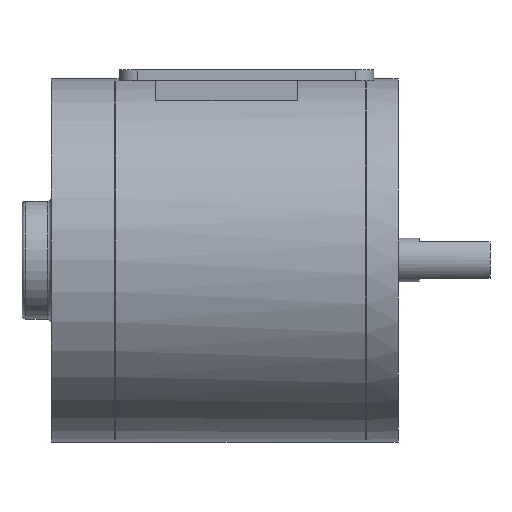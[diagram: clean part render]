
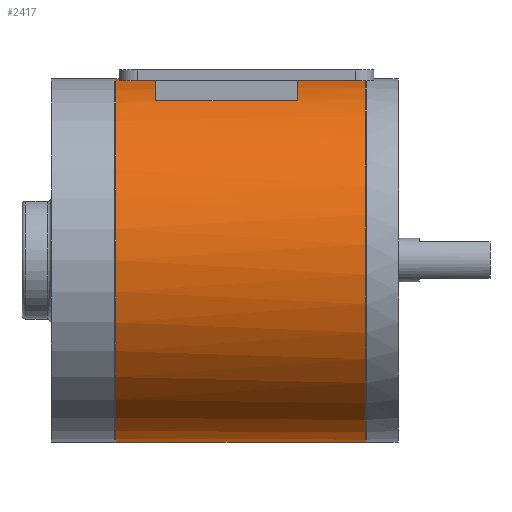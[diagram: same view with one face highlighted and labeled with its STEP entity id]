
A CAD part, left-side view. The second image highlights one B-rep face of the part: STEP entity #2417.
In plain terms, the highlighted cylindrical face has radius 50 mm (diameter 100 mm), a partial arc.
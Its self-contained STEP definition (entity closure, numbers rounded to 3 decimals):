
#17 = EDGE_CURVE ( 'NONE', #1849, #576, #639, .T. ) ;
#64 = LINE ( 'NONE', #2959, #3316 ) ;
#103 = VECTOR ( 'NONE', #3511, 1000. ) ;
#162 = VERTEX_POINT ( 'NONE', #902 ) ;
#228 = CARTESIAN_POINT ( 'NONE',  ( 0., -32.75, -99.395 ) ) ;
#278 = CARTESIAN_POINT ( 'NONE',  ( 0., 36.05, -49.395 ) ) ;
#313 = EDGE_CURVE ( 'NONE', #2692, #1849, #3280, .T. ) ;
#381 = LINE ( 'NONE', #1835, #3623 ) ;
#404 = LINE ( 'NONE', #2571, #103 ) ;
#522 = DIRECTION ( 'NONE',  ( 0., -1., 0. ) ) ;
#576 = VERTEX_POINT ( 'NONE', #3020 ) ;
#595 = DIRECTION ( 'NONE',  ( 0., 0., 1. ) ) ;
#632 = VERTEX_POINT ( 'NONE', #838 ) ;
#639 = CIRCLE ( 'NONE', #1906, 50. ) ;
#751 = VECTOR ( 'NONE', #3515, 1000. ) ;
#808 = ORIENTED_EDGE ( 'NONE', *, *, #1868, .F. ) ;
#838 = CARTESIAN_POINT ( 'NONE',  ( 0., 36.05, -99.395 ) ) ;
#841 = LINE ( 'NONE', #2935, #2325 ) ;
#858 = AXIS2_PLACEMENT_3D ( 'NONE', #2361, #522, #3164 ) ;
#881 = FACE_OUTER_BOUND ( 'NONE', #915, .T. ) ;
#883 = AXIS2_PLACEMENT_3D ( 'NONE', #2523, #2580, #2641 ) ;
#902 = CARTESIAN_POINT ( 'NONE',  ( 0., 36.05, 0.605 ) ) ;
#906 = AXIS2_PLACEMENT_3D ( 'NONE', #3565, #1678, #3870 ) ;
#915 = EDGE_LOOP ( 'NONE', ( #2964, #3877, #3167, #2422, #3370, #1345 ) ) ;
#988 = AXIS2_PLACEMENT_3D ( 'NONE', #278, #2467, #595 ) ;
#1175 = EDGE_CURVE ( 'NONE', #162, #1896, #64, .T. ) ;
#1342 = CARTESIAN_POINT ( 'NONE',  ( -7.754, -32.75, 0. ) ) ;
#1345 = ORIENTED_EDGE ( 'NONE', *, *, #3025, .T. ) ;
#1479 = VERTEX_POINT ( 'NONE', #228 ) ;
#1497 = DIRECTION ( 'NONE',  ( 0., 0., -1. ) ) ;
#1571 = EDGE_CURVE ( 'NONE', #632, #1479, #841, .T. ) ;
#1626 = CARTESIAN_POINT ( 'NONE',  ( -24., 36.3, -5.532 ) ) ;
#1678 = DIRECTION ( 'NONE',  ( 0., 1., 0. ) ) ;
#1765 = CARTESIAN_POINT ( 'NONE',  ( -24., -14., -5.532 ) ) ;
#1774 = CIRCLE ( 'NONE', #883, 50. ) ;
#1835 = CARTESIAN_POINT ( 'NONE',  ( -21., 36.3, -4.019 ) ) ;
#1849 = VERTEX_POINT ( 'NONE', #1765 ) ;
#1850 = DIRECTION ( 'NONE',  ( 0., 1., 0. ) ) ;
#1868 = EDGE_CURVE ( 'NONE', #3839, #2692, #1774, .T. ) ;
#1896 = VERTEX_POINT ( 'NONE', #3894 ) ;
#1906 = AXIS2_PLACEMENT_3D ( 'NONE', #3851, #3944, #1497 ) ;
#2052 = CIRCLE ( 'NONE', #988, 50. ) ;
#2183 = EDGE_LOOP ( 'NONE', ( #3036, #3137, #3233, #808 ) ) ;
#2308 = VERTEX_POINT ( 'NONE', #3212 ) ;
#2313 = EDGE_CURVE ( 'NONE', #2618, #2308, #404, .T. ) ;
#2320 = AXIS2_PLACEMENT_3D ( 'NONE', #3736, #1850, #4038 ) ;
#2325 = VECTOR ( 'NONE', #3239, 1000. ) ;
#2361 = CARTESIAN_POINT ( 'NONE',  ( 0., 36.3, -49.395 ) ) ;
#2417 = ADVANCED_FACE ( 'NONE', ( #881, #3410 ), #3009, .T. ) ;
#2422 = ORIENTED_EDGE ( 'NONE', *, *, #2636, .T. ) ;
#2467 = DIRECTION ( 'NONE',  ( 0., -1., 0. ) ) ;
#2523 = CARTESIAN_POINT ( 'NONE',  ( 0., 25., -49.395 ) ) ;
#2571 = CARTESIAN_POINT ( 'NONE',  ( -7.754, 36.3, 0. ) ) ;
#2580 = DIRECTION ( 'NONE',  ( 0., -1., 0. ) ) ;
#2618 = VERTEX_POINT ( 'NONE', #1342 ) ;
#2636 = EDGE_CURVE ( 'NONE', #1479, #2618, #3734, .T. ) ;
#2641 = DIRECTION ( 'NONE',  ( 0., 0., 1. ) ) ;
#2692 = VERTEX_POINT ( 'NONE', #3892 ) ;
#2935 = CARTESIAN_POINT ( 'NONE',  ( 0., 36.3, -99.395 ) ) ;
#2959 = CARTESIAN_POINT ( 'NONE',  ( 0., 36.3, 0.605 ) ) ;
#2964 = ORIENTED_EDGE ( 'NONE', *, *, #1175, .F. ) ;
#3009 = CYLINDRICAL_SURFACE ( 'NONE', #858, 50. ) ;
#3020 = CARTESIAN_POINT ( 'NONE',  ( -21., -14., -4.019 ) ) ;
#3025 = EDGE_CURVE ( 'NONE', #2308, #1896, #3200, .T. ) ;
#3036 = ORIENTED_EDGE ( 'NONE', *, *, #3987, .F. ) ;
#3137 = ORIENTED_EDGE ( 'NONE', *, *, #17, .F. ) ;
#3164 = DIRECTION ( 'NONE',  ( 0., 0., -1. ) ) ;
#3167 = ORIENTED_EDGE ( 'NONE', *, *, #1571, .T. ) ;
#3200 = CIRCLE ( 'NONE', #2320, 50. ) ;
#3212 = CARTESIAN_POINT ( 'NONE',  ( -7.754, 35., 0. ) ) ;
#3233 = ORIENTED_EDGE ( 'NONE', *, *, #313, .F. ) ;
#3239 = DIRECTION ( 'NONE',  ( 0., -1., 0. ) ) ;
#3280 = LINE ( 'NONE', #1626, #751 ) ;
#3316 = VECTOR ( 'NONE', #3587, 1000. ) ;
#3370 = ORIENTED_EDGE ( 'NONE', *, *, #2313, .T. ) ;
#3384 = CARTESIAN_POINT ( 'NONE',  ( -21., 25., -4.019 ) ) ;
#3410 = FACE_BOUND ( 'NONE', #2183, .T. ) ;
#3511 = DIRECTION ( 'NONE',  ( 0., 1., 0. ) ) ;
#3515 = DIRECTION ( 'NONE',  ( 0., -1., 0. ) ) ;
#3565 = CARTESIAN_POINT ( 'NONE',  ( 0., -32.75, -49.395 ) ) ;
#3587 = DIRECTION ( 'NONE',  ( 0., -1., 0. ) ) ;
#3623 = VECTOR ( 'NONE', #3869, 1000. ) ;
#3734 = CIRCLE ( 'NONE', #906, 50. ) ;
#3736 = CARTESIAN_POINT ( 'NONE',  ( 0., 35., -49.395 ) ) ;
#3839 = VERTEX_POINT ( 'NONE', #3384 ) ;
#3851 = CARTESIAN_POINT ( 'NONE',  ( 0., -14., -49.395 ) ) ;
#3869 = DIRECTION ( 'NONE',  ( 0., 1., 0. ) ) ;
#3870 = DIRECTION ( 'NONE',  ( 0., 0., 1. ) ) ;
#3877 = ORIENTED_EDGE ( 'NONE', *, *, #3975, .T. ) ;
#3892 = CARTESIAN_POINT ( 'NONE',  ( -24., 25., -5.532 ) ) ;
#3894 = CARTESIAN_POINT ( 'NONE',  ( 0., 35., 0.605 ) ) ;
#3944 = DIRECTION ( 'NONE',  ( 0., 1., 0. ) ) ;
#3975 = EDGE_CURVE ( 'NONE', #162, #632, #2052, .T. ) ;
#3987 = EDGE_CURVE ( 'NONE', #576, #3839, #381, .T. ) ;
#4038 = DIRECTION ( 'NONE',  ( 0., 0., -1. ) ) ;
